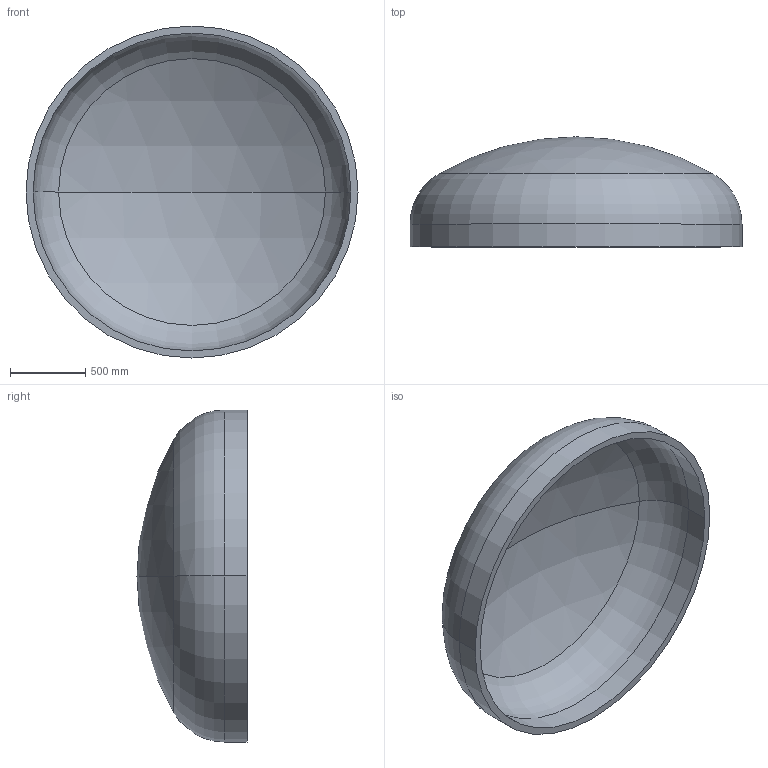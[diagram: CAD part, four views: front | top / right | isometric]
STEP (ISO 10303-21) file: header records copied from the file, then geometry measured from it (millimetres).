
FILE_DESCRIPTION (( 'STEP AP203' ), '1' );
FILE_NAME ('DIN 28013 Korbbogenform_-_Boden DIN 28013 - 2200 x 150 - I - s=47.step', '2016-07-01T14:39:00', ( '' ), ( '' ), 'SwSTEP 2.0', 'SolidWorks 2013', '' );
FILE_SCHEMA (( 'CONFIG_CONTROL_DESIGN' ));
Length unit declared in the file: millimetre
Products named in the file (1): DIN 28013 Korbbogenform_-_Boden DIN 28013 - 2200 x 150 - I - s=47
Bounding box: 2200 x 728.98 x 2200 mm (x, y, z)
Volume: 288443492 mm3; surface area: 12596714.8 mm2
Topology: 1 solids, 1 shells, 13 faces, 24 edges, 14 vertices
Faces by surface type: torus 4, cylinder 4, sphere 4, plane 1
Entity records: 407 total; most frequent: DIRECTION 72, CARTESIAN_POINT 52, ORIENTED_EDGE 48, AXIS2_PLACEMENT_3D 34, EDGE_CURVE 24, CIRCLE 20, EDGE_LOOP 14, VERTEX_POINT 14
